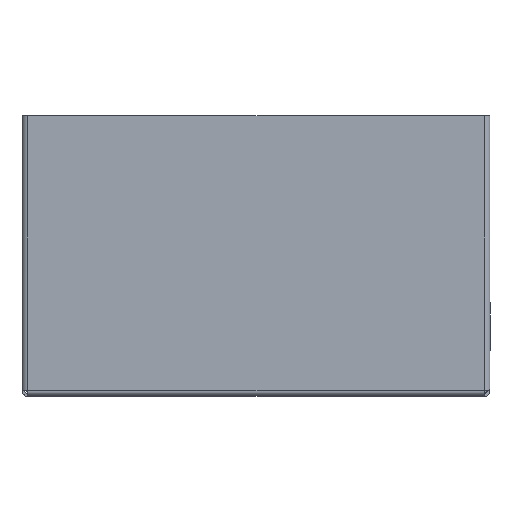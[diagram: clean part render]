
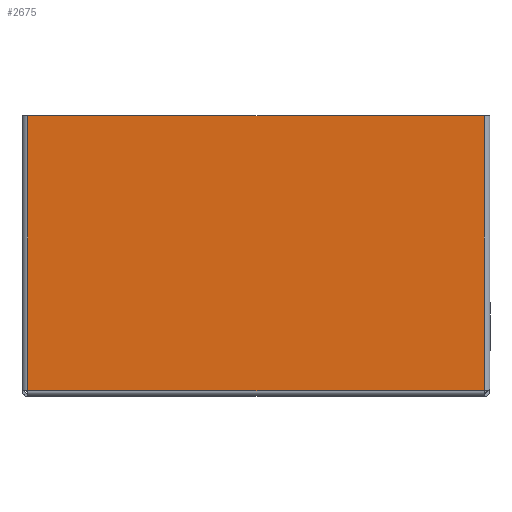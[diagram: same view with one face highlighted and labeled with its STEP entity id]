
A CAD part, left-side view. The second image highlights one B-rep face of the part: STEP entity #2675.
In plain terms, the highlighted planar face has unit normal (-1, 0, 0).
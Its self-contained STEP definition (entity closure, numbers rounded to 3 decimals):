
#149 = EDGE_CURVE ( 'NONE', #1799, #1373, #2111, .T. ) ;
#155 = DIRECTION ( 'NONE',  ( 0., 0., 1. ) ) ;
#449 = DIRECTION ( 'NONE',  ( 0., -1., 0. ) ) ;
#483 = VECTOR ( 'NONE', #155, 1000. ) ;
#594 = EDGE_CURVE ( 'NONE', #3630, #1799, #788, .T. ) ;
#602 = EDGE_CURVE ( 'NONE', #2518, #1373, #731, .T. ) ;
#647 = ORIENTED_EDGE ( 'NONE', *, *, #149, .T. ) ;
#731 = LINE ( 'NONE', #1363, #3656 ) ;
#788 = LINE ( 'NONE', #3172, #2759 ) ;
#991 = CARTESIAN_POINT ( 'NONE',  ( 0., 493.7, -293.7 ) ) ;
#1221 = ORIENTED_EDGE ( 'NONE', *, *, #3760, .T. ) ;
#1241 = ORIENTED_EDGE ( 'NONE', *, *, #594, .T. ) ;
#1319 = CARTESIAN_POINT ( 'NONE',  ( 0., 6.3, 0. ) ) ;
#1363 = CARTESIAN_POINT ( 'NONE',  ( 0., 924.264, 0. ) ) ;
#1373 = VERTEX_POINT ( 'NONE', #1319 ) ;
#1402 = CARTESIAN_POINT ( 'NONE',  ( 0., 493.7, 0. ) ) ;
#1483 = EDGE_LOOP ( 'NONE', ( #3730, #1221, #1241, #647 ) ) ;
#1506 = PLANE ( 'NONE',  #3817 ) ;
#1652 = CARTESIAN_POINT ( 'NONE',  ( 0., 6.3, -293.7 ) ) ;
#1799 = VERTEX_POINT ( 'NONE', #3060 ) ;
#2050 = CARTESIAN_POINT ( 'NONE',  ( 0., 924.264, 0. ) ) ;
#2111 = LINE ( 'NONE', #1652, #483 ) ;
#2141 = CARTESIAN_POINT ( 'NONE',  ( 0., 493.7, 0. ) ) ;
#2269 = DIRECTION ( 'NONE',  ( 0., -1., 0. ) ) ;
#2409 = FACE_OUTER_BOUND ( 'NONE', #1483, .T. ) ;
#2518 = VERTEX_POINT ( 'NONE', #2141 ) ;
#2650 = DIRECTION ( 'NONE',  ( 0., 0., -1. ) ) ;
#2675 = ADVANCED_FACE ( 'NONE', ( #2409 ), #1506, .T. ) ;
#2759 = VECTOR ( 'NONE', #2269, 1000. ) ;
#3060 = CARTESIAN_POINT ( 'NONE',  ( 0., 6.3, -293.7 ) ) ;
#3172 = CARTESIAN_POINT ( 'NONE',  ( 0., 924.264, -293.7 ) ) ;
#3216 = LINE ( 'NONE', #1402, #3376 ) ;
#3279 = DIRECTION ( 'NONE',  ( -1., 0., 0. ) ) ;
#3376 = VECTOR ( 'NONE', #2650, 1000. ) ;
#3621 = DIRECTION ( 'NONE',  ( 0., 0., 1. ) ) ;
#3630 = VERTEX_POINT ( 'NONE', #991 ) ;
#3656 = VECTOR ( 'NONE', #449, 1000. ) ;
#3730 = ORIENTED_EDGE ( 'NONE', *, *, #602, .F. ) ;
#3760 = EDGE_CURVE ( 'NONE', #2518, #3630, #3216, .T. ) ;
#3817 = AXIS2_PLACEMENT_3D ( 'NONE', #2050, #3279, #3621 ) ;
